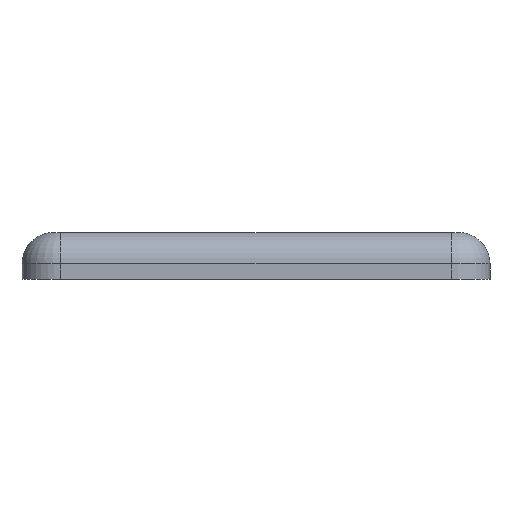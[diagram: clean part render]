
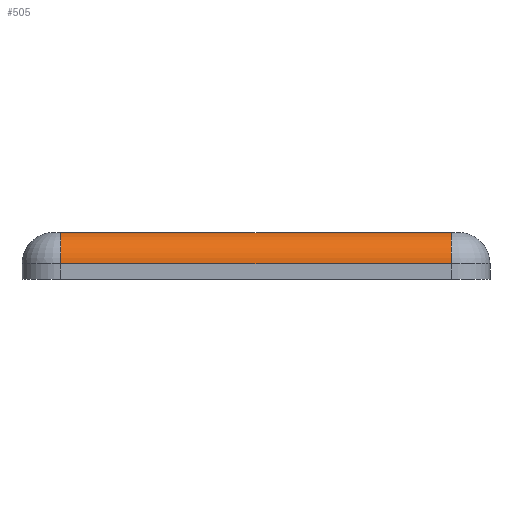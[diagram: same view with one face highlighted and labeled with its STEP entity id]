
A CAD part, front view. The second image highlights one B-rep face of the part: STEP entity #505.
In plain terms, the highlighted cylindrical face has radius 2 mm (diameter 4 mm), a partial arc.
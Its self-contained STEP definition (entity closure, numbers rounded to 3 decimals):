
#505 = ADVANCED_FACE ( 'NONE', ( #1391 ), #591, .T. ) ;
#591 = CYLINDRICAL_SURFACE ( 'NONE', #8149, 2. ) ;
#795 = DIRECTION ( 'NONE',  ( -1., 0., 0. ) ) ;
#1102 = CARTESIAN_POINT ( 'NONE',  ( 12.5, -15., 1. ) ) ;
#1328 = DIRECTION ( 'NONE',  ( 0., 0., 1. ) ) ;
#1391 = FACE_OUTER_BOUND ( 'NONE', #10780, .T. ) ;
#1684 = ORIENTED_EDGE ( 'NONE', *, *, #5072, .F. ) ;
#1706 = CARTESIAN_POINT ( 'NONE',  ( -12.5, -13., 3. ) ) ;
#2119 = DIRECTION ( 'NONE',  ( 1., 0., 0. ) ) ;
#3472 = ORIENTED_EDGE ( 'NONE', *, *, #8445, .F. ) ;
#4285 = CARTESIAN_POINT ( 'NONE',  ( -15., -15., 1. ) ) ;
#4433 = EDGE_CURVE ( 'NONE', #4920, #6749, #10951, .T. ) ;
#4869 = CARTESIAN_POINT ( 'NONE',  ( 0., -13., 3. ) ) ;
#4920 = VERTEX_POINT ( 'NONE', #10394 ) ;
#5072 = EDGE_CURVE ( 'NONE', #8332, #8033, #9128, .T. ) ;
#5306 = DIRECTION ( 'NONE',  ( 0., 0., -1. ) ) ;
#5428 = CARTESIAN_POINT ( 'NONE',  ( 12.5, -13., 1. ) ) ;
#6482 = LINE ( 'NONE', #4869, #6759 ) ;
#6749 = VERTEX_POINT ( 'NONE', #1706 ) ;
#6759 = VECTOR ( 'NONE', #8256, 1000. ) ;
#7269 = VECTOR ( 'NONE', #795, 1000. ) ;
#7520 = CARTESIAN_POINT ( 'NONE',  ( 12.5, -13., 3. ) ) ;
#7651 = AXIS2_PLACEMENT_3D ( 'NONE', #9419, #10170, #1328 ) ;
#8033 = VERTEX_POINT ( 'NONE', #1102 ) ;
#8149 = AXIS2_PLACEMENT_3D ( 'NONE', #8389, #2119, #10118 ) ;
#8256 = DIRECTION ( 'NONE',  ( 1., 0., 0. ) ) ;
#8332 = VERTEX_POINT ( 'NONE', #7520 ) ;
#8389 = CARTESIAN_POINT ( 'NONE',  ( 0., -13., 1. ) ) ;
#8445 = EDGE_CURVE ( 'NONE', #8033, #4920, #9635, .T. ) ;
#8745 = AXIS2_PLACEMENT_3D ( 'NONE', #5428, #8752, #5306 ) ;
#8752 = DIRECTION ( 'NONE',  ( 1., 0., 0. ) ) ;
#9128 = CIRCLE ( 'NONE', #8745, 2. ) ;
#9419 = CARTESIAN_POINT ( 'NONE',  ( -12.5, -13., 1. ) ) ;
#9451 = ORIENTED_EDGE ( 'NONE', *, *, #11016, .F. ) ;
#9635 = LINE ( 'NONE', #4285, #7269 ) ;
#9940 = ORIENTED_EDGE ( 'NONE', *, *, #4433, .F. ) ;
#10118 = DIRECTION ( 'NONE',  ( 0., 1., 0. ) ) ;
#10170 = DIRECTION ( 'NONE',  ( -1., 0., 0. ) ) ;
#10394 = CARTESIAN_POINT ( 'NONE',  ( -12.5, -15., 1. ) ) ;
#10780 = EDGE_LOOP ( 'NONE', ( #9940, #3472, #1684, #9451 ) ) ;
#10951 = CIRCLE ( 'NONE', #7651, 2. ) ;
#11016 = EDGE_CURVE ( 'NONE', #6749, #8332, #6482, .T. ) ;
